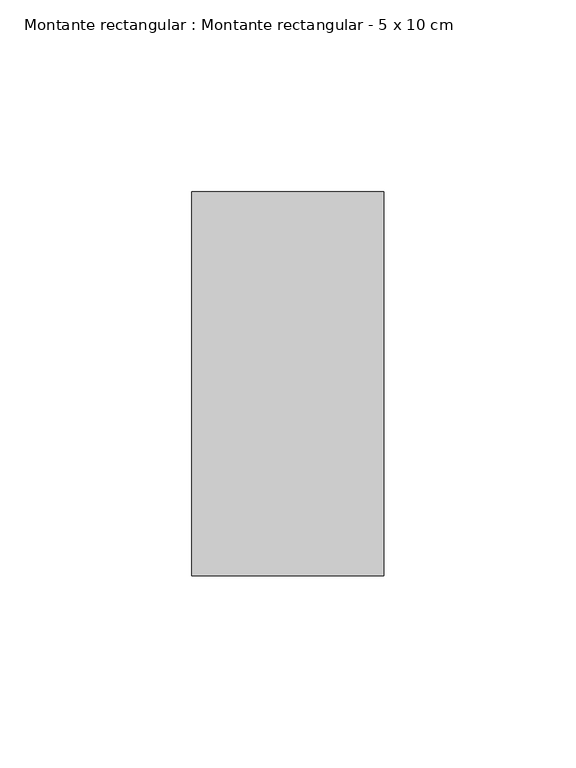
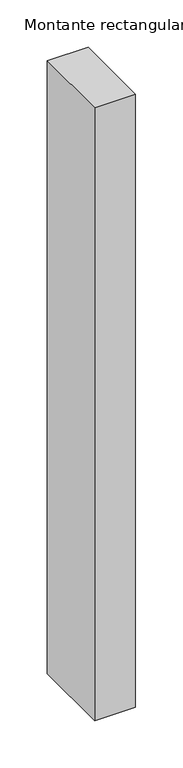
"""IFC4 building model written with IfcOpenShell, lengths in millimetres: member geometry, Montante rectangular : Montante rectangular - 5 x 10 cm."""

from ifc_helpers import new_model, si_unit, frame, origin, place, context, project, spatial, polyline, outline, extrude, source, transform, mapped, element, save


def montante_rectangular_montante_rectangular_5_x_10_cm_c4eb0173(model_context):
    return source(origin(), model_context, "Body", "SweptSolid", [
        extrude(outline(polyline([(0.0, -50.0), (-50.0, -50.0), (-50.0, 50.0), (0.0, 50.0), (0.0, -50.0)])), frame((0.0, 0.0, -791.6666667), z_axis=(0.0, 0.0, 1.0), x_axis=(1.0, 0.0, 0.0)), (0.0, 0.0, 1.0), 791.6666667),
    ])


if __name__ == "__main__":
    model = new_model("IFC4")
    model_context = context("Model", 3, world=origin())
    ifc_project = project(units=[si_unit("LENGTHUNIT", "METRE", prefix="MILLI")], contexts=[model_context])
    site = spatial("IfcSite", under=ifc_project)
    building = spatial("IfcBuilding", under=site)
    placement = place(None, origin())
    montante_rectangular_montante_rectangular_5_x_10_cm_shape = montante_rectangular_montante_rectangular_5_x_10_cm_c4eb0173(model_context)
    element("IfcMember", 1, ObjectType="Montante rectangular : Montante rectangular - 5 x 10 cm", at=placement, inside=building, context=model_context, shape_type="MappedRepresentation", body=[
        mapped(montante_rectangular_montante_rectangular_5_x_10_cm_shape, transform((0.0, 0.0, 0.0), x_axis=(1.0, 0.0, 0.0), y_axis=(0.0, 1.0, 0.0), z_axis=(0.0, 0.0, 1.0))),
    ])
    save(model, "model.ifc")
